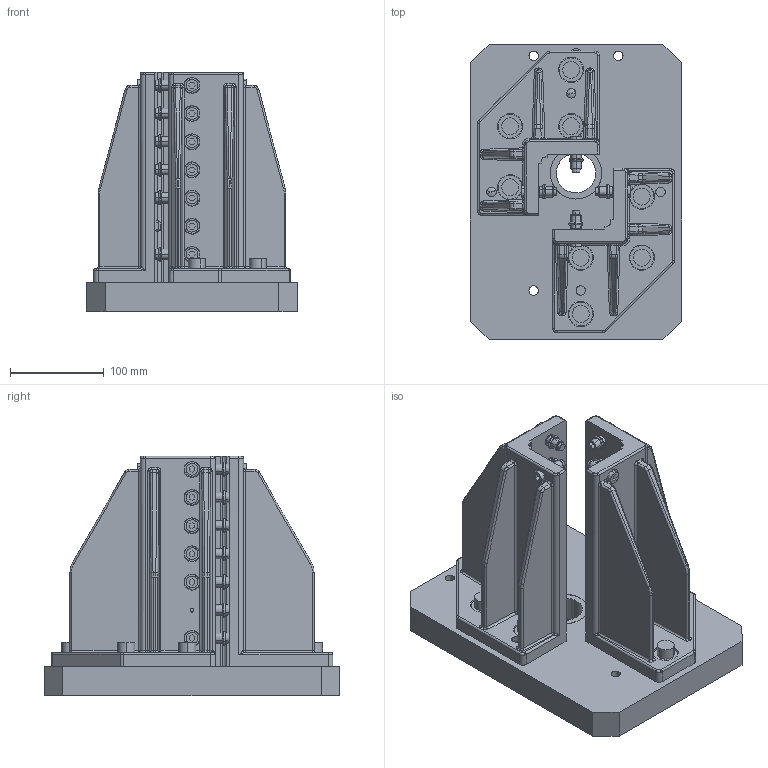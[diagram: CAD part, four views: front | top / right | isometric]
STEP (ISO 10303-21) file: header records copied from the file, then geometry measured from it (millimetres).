
FILE_DESCRIPTION(('STEP AP214'),'1');
FILE_NAME('EGT048_1706182_FLANSCHPLATTE_SW80_SENKRECHT.CATPart.stp','2015-09-14T13:05:49',('3D-Tool'),(' '),'Spatial InterOp 3D',' ',' ');
FILE_SCHEMA(('automotive_design'));
Length unit declared in the file: millimetre
Products named in the file (43): EGT048_1706182_FLANSCHPLATTE_SW80_SENKRECHT|Flanschplatte_Senkrecht|UserPattern.3; EGT048_1706182_FLANSCHPLATTE_SW80_SENKRECHT|EGT_208_Winkel_f_Senkr_Anbind_8KT_Rohr_SW80.1\5251925.1\Winkel f. Senkr. Anbind. 8kt.-Rohr SW80|Solid.1; EGT048_1706182_FLANSCHPLATTE_SW80_SENKRECHT|EGT_209_Winkel_f_Senkr_Anbind_8KT_Rohr_SW50.2\5251925.1\Winkel f. Senkr. Anbind. 8kt.-Rohr SW80|Solid.1; 1; 2; 3; 4; 5; 6; 7; 8; 9; 10; 11; 12; 13; 14; 15; 16; 17; 18; 19; 20; 21; 22; 23; 24; 25; 26; 27; 28; 29; 30; 31; 32; 33; 34; 35; 36; 37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
Bounding box: 225 x 315 x 255 mm (x, y, z)
Volume: 4156668.5 mm3; surface area: 653062.4 mm2
Topology: 43 solids, 43 shells, 2634 faces, 6290 edges, 3924 vertices
Faces by surface type: cylinder 1390, plane 566, cone 324, torus 266, bspline 56, sphere 32
Entity records: 104054 total; most frequent: CARTESIAN_POINT 18431, DIRECTION 14778, ORIENTED_EDGE 12524, EDGE_CURVE 6262, AXIS2_PLACEMENT_3D 6161, VERTEX_POINT 3924, CIRCLE 3540, EDGE_LOOP 2960
